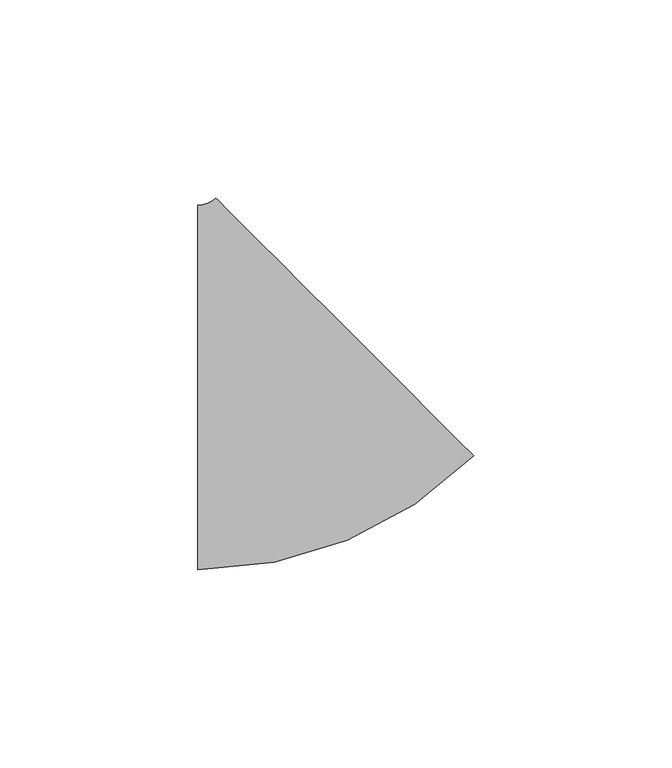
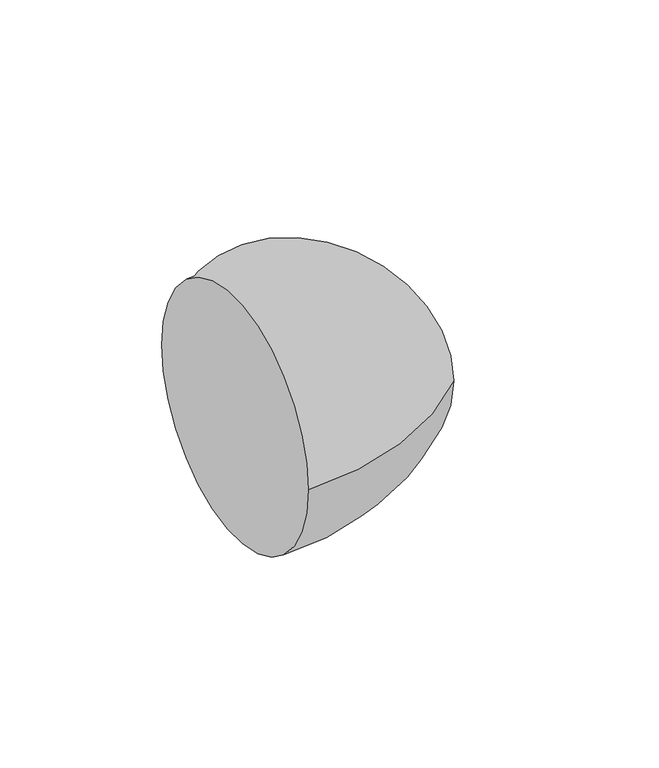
"""IFC4 building model written with IfcOpenShell, lengths in millimetres: pipe fitting geometry, M_Codo - Genérico : Estándar."""

from ifc_helpers import new_model, si_unit, point, frame, origin, place, context, project, spatial, circle_curve, ellipse_curve, trimmed, source, transform, mapped, element, save
from ifc_brep_helpers import plane_surface, revolved_surface, advanced_brep


def pipe_fitting_a0a0c51a(model_context):
    return source(origin(), model_context, "Body", "AdvancedBrep", [
        advanced_brep(
        [(-21.700469, -46.0375, 0.0), (-21.700469, 46.0375, 0.0), (47.8984572, -17.2075436, 0.0), (-17.2102157, 47.8974972, 0.0)],
        [
            (0, 1, circle_curve(frame((-21.700469, 0.0, 0.0), z_axis=(-1.0, 0.0, 0.0), x_axis=(0.0, 1.0, 0.0)), 46.0375)),
            (1, 0, circle_curve(frame((-21.700469, 0.0, 0.0), z_axis=(-1.0, 0.0, 0.0), x_axis=(0.0, 1.0, 0.0)), 46.0375)),
            (2, 3, circle_curve(frame((15.3441208, 15.3449768, 0.0), z_axis=(0.70708705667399, 0.7071265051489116, 0.0), x_axis=(-0.7071265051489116, 0.70708705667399, 0.0)), 46.0375)),
            (3, 2, circle_curve(frame((15.3441208, 15.3449768, 0.0), z_axis=(0.70708705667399, 0.7071265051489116, 0.0), x_axis=(-0.7071265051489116, 0.70708705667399, 0.0)), 46.0375)),
            (3, 1, circle_curve(frame((-21.700469, 52.3875, 0.0), z_axis=(0.0, 0.0, -1.0), x_axis=(0.0, -1.0, 0.0)), 6.35)),
            (0, 2, circle_curve(frame((-21.700469, 52.3875, 0.0), z_axis=(0.0, 0.0, 1.0), x_axis=(0.0, -1.0, 0.0)), 98.425)),
        ],
        [
            plane_surface(frame((-21.700469, 0.0, 0.0), z_axis=(-1.0, 0.0, 0.0), x_axis=(0.0, 0.0, 1.0))),
            plane_surface(frame((15.3441208, 15.3449768, 0.0), z_axis=(0.70708705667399, 0.7071265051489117, 0.0), x_axis=(0.0, 0.0, 1.0))),
            revolved_surface(trimmed(ellipse_curve(frame((-21.700469, 0.0, 0.0), z_axis=(-1.0, 0.0, 0.0), x_axis=(0.0, 1.0, 0.0)), 46.0375, 46.0375), [point((-21.700469, -46.0375, 0.0))], [point((-21.700469, 46.0375, 0.0))], True, "CARTESIAN"), (-21.700469, 52.3875, 0.0), (0.0, 0.0, 1.0)),
            revolved_surface(trimmed(ellipse_curve(frame((-21.700469, 0.0, 0.0), z_axis=(-1.0, 0.0, 0.0), x_axis=(0.0, 1.0, 0.0)), 46.0375, 46.0375), [point((-21.700469, 46.0375, 0.0))], [point((-21.700469, -46.0375, 0.0))], True, "CARTESIAN"), (-21.700469, 52.3875, 0.0), (0.0, 0.0, 1.0)),
        ],
        [
            (0, [[1, 2]]),
            (1, [[3, 4]]),
            (2, [[5, -1, 6, -4]]),
            (3, [[-6, -2, -5, -3]]),
        ],
    ),
    ])


if __name__ == "__main__":
    model = new_model("IFC4")
    model_context = context("Model", 3, world=origin())
    ifc_project = project(units=[si_unit("LENGTHUNIT", "METRE", prefix="MILLI")], contexts=[model_context])
    site = spatial("IfcSite", under=ifc_project)
    building = spatial("IfcBuilding", under=site)
    placement = place(None, origin())
    pipe_fitting_shape = pipe_fitting_a0a0c51a(model_context)
    element("IfcPipeFitting", 1, ObjectType="M_Codo - Genérico : Estándar", at=placement, inside=building, context=model_context, shape_type="MappedRepresentation", body=[
        mapped(pipe_fitting_shape, transform((0.0, 0.0, 0.0), x_axis=(1.0, 0.0, 0.0), y_axis=(0.0, 1.0, 0.0), z_axis=(0.0, 0.0, 1.0))),
    ])
    save(model, "model.ifc")
